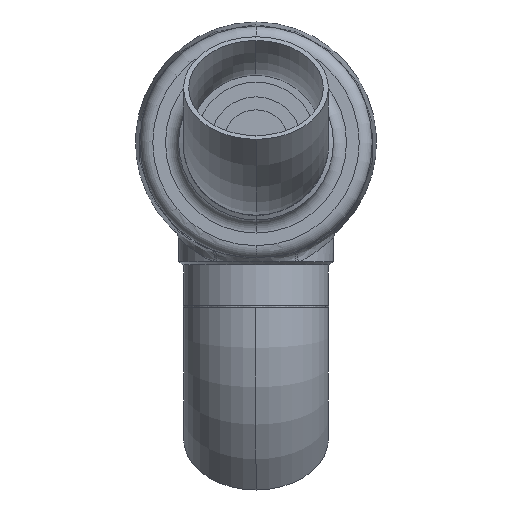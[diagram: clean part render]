
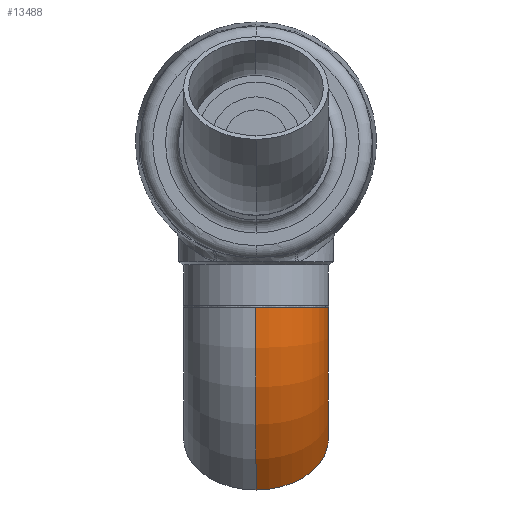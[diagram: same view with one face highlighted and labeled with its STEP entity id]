
A CAD part, front view. The second image highlights one B-rep face of the part: STEP entity #13488.
In plain terms, the highlighted toroidal (fillet/blend) face has major radius 114 mm and minor radius 44.45 mm.
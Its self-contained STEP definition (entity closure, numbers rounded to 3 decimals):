
#125 = ORIENTED_EDGE ( 'NONE', *, *, #11401, .T. ) ;
#17404 = VERTEX_POINT ( 'NONE', #5990 ) ;
#17772 = CIRCLE ( 'NONE', #17773, 69.55 ) ;
#17773 = AXIS2_PLACEMENT_3D ( 'NONE', #17774, #17775, #17776 ) ;
#17774 = CARTESIAN_POINT ( 'NONE',  ( 0., -114., 0. ) ) ;
#17775 = DIRECTION ( 'NONE',  ( 0., 0., 1. ) ) ;
#17776 = DIRECTION ( 'NONE',  ( 1., 0., 0. ) ) ;
#2260 = CARTESIAN_POINT ( 'NONE',  ( 49.179, -64.821, 0. ) ) ;
#2675 = CIRCLE ( 'NONE', #2676, 44.45 ) ;
#2676 = AXIS2_PLACEMENT_3D ( 'NONE', #2677, #2678, #2679 ) ;
#2677 = CARTESIAN_POINT ( 'NONE',  ( 80.61, -33.39, 0. ) ) ;
#2678 = DIRECTION ( 'NONE',  ( 0.707, -0.707, 0. ) ) ;
#2679 = DIRECTION ( 'NONE',  ( 0., 0., -1. ) ) ;
#2876 = VERTEX_POINT ( 'NONE', #2260 ) ;
#3073 = CARTESIAN_POINT ( 'NONE',  ( 112.041, -1.959, 0. ) ) ;
#3080 = EDGE_CURVE ( 'NONE', #2876, #7924, #2675, .T. ) ;
#3098 = ORIENTED_EDGE ( 'NONE', *, *, #12812, .F. ) ;
#5015 = EDGE_LOOP ( 'NONE', ( #3098, #11056, #125, #6038 ) ) ;
#5990 = CARTESIAN_POINT ( 'NONE',  ( 0., 44.45, 0. ) ) ;
#6038 = ORIENTED_EDGE ( 'NONE', *, *, #8339, .T. ) ;
#6318 = CIRCLE ( 'NONE', #6319, 158.45 ) ;
#6319 = AXIS2_PLACEMENT_3D ( 'NONE', #6320, #6321, #6322 ) ;
#6320 = CARTESIAN_POINT ( 'NONE',  ( 0., -114., 0. ) ) ;
#6321 = DIRECTION ( 'NONE',  ( 0., 0., 1. ) ) ;
#6322 = DIRECTION ( 'NONE',  ( 1., 0., 0. ) ) ;
#6466 = CIRCLE ( 'NONE', #6467, 44.45 ) ;
#6467 = AXIS2_PLACEMENT_3D ( 'NONE', #6468, #6469, #6470 ) ;
#6468 = CARTESIAN_POINT ( 'NONE',  ( 0., 0., 0. ) ) ;
#6469 = DIRECTION ( 'NONE',  ( 1., 0., 0. ) ) ;
#6470 = DIRECTION ( 'NONE',  ( 0., 0., -1. ) ) ;
#7251 = CARTESIAN_POINT ( 'NONE',  ( 0., -44.45, 0. ) ) ;
#7252 = FACE_OUTER_BOUND ( 'NONE', #5015, .T. ) ;
#7253 = TOROIDAL_SURFACE ( 'NONE', #7254, 114., 44.45 ) ;
#7254 = AXIS2_PLACEMENT_3D ( 'NONE', #7255, #7256, #7257 ) ;
#7255 = CARTESIAN_POINT ( 'NONE',  ( 0., -114., 0. ) ) ;
#7256 = DIRECTION ( 'NONE',  ( 0., 0., 1. ) ) ;
#7257 = DIRECTION ( 'NONE',  ( 1., 0., 0. ) ) ;
#7924 = VERTEX_POINT ( 'NONE', #3073 ) ;
#8339 = EDGE_CURVE ( 'NONE', #8877, #17404, #6466, .T. ) ;
#8877 = VERTEX_POINT ( 'NONE', #7251 ) ;
#11056 = ORIENTED_EDGE ( 'NONE', *, *, #3080, .F. ) ;
#11401 = EDGE_CURVE ( 'NONE', #2876, #8877, #17772, .T. ) ;
#12812 = EDGE_CURVE ( 'NONE', #7924, #17404, #6318, .T. ) ;
#13488 = ADVANCED_FACE ( 'NONE', ( #7252 ), #7253, .T. ) ;
